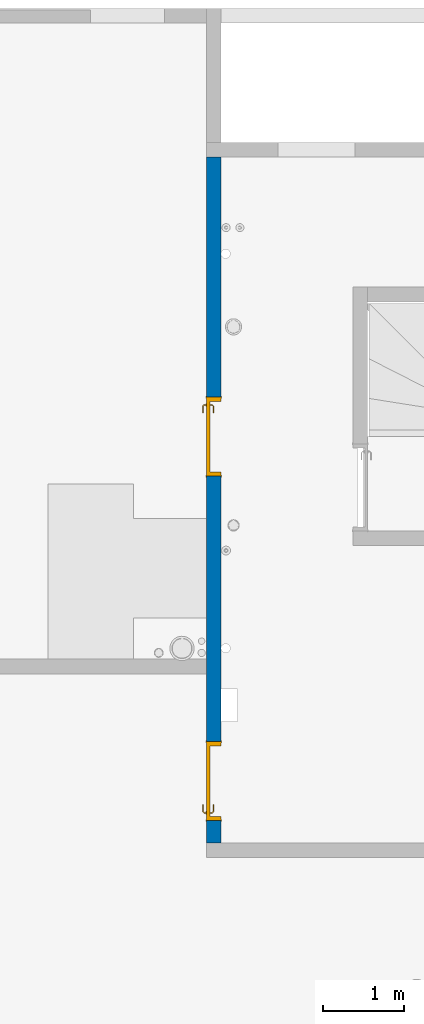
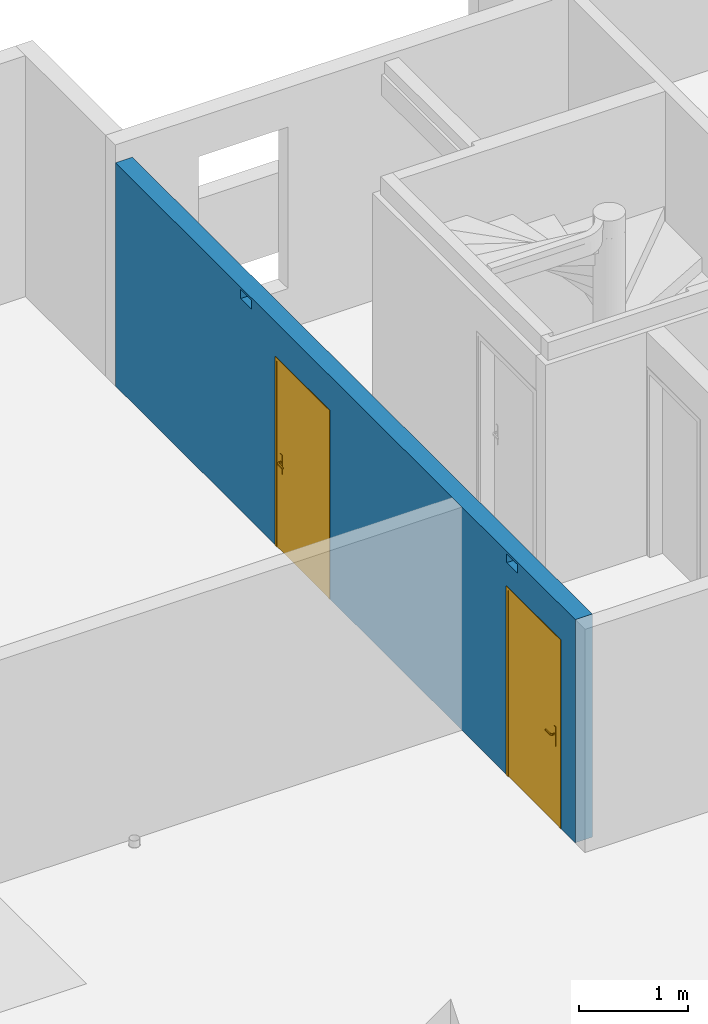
# One storey, part 12 of 24: 2 doors, 1 wall, 4 openings.
"""IFC2X3 building model written with IfcOpenShell, lengths in centimetres."""

from ifc_helpers import new_model, entity, si_unit, converted_unit, derived_unit, direction, frame, frame_2d, origin, place, context, subcontext, project, spatial, rectangle, extrude, faceted_brep, source, transform, mapped, material, material_list, layer, layer_set, layer_usage, type_object, type_shapes, element, fill, save


model = new_model("IFC2X3")

# Units and contexts
model_context = context("Model", 3, precision=0.001, world=origin(), true_north=direction((6.12303176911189e-17, 1.0)))
body_context = subcontext(model_context, "Body", "Model", "MODEL_VIEW")
ifc_project = project(units=[si_unit("LENGTHUNIT", "METRE", prefix="CENTI"), si_unit("AREAUNIT", "SQUARE_METRE"), si_unit("VOLUMEUNIT", "CUBIC_METRE"), converted_unit("PLANEANGLEUNIT", "DEGREE", entity("IfcRatioMeasure", 0.0174532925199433), si_unit("PLANEANGLEUNIT", "RADIAN"), dimensions=[0, 0, 0, 0, 0, 0, 0]), si_unit("MASSUNIT", "GRAM", prefix="KILO"), derived_unit("MASSDENSITYUNIT", [(si_unit("MASSUNIT", "GRAM", prefix="KILO"), 1), (si_unit("LENGTHUNIT", "METRE"), -3)]), si_unit("TIMEUNIT", "SECOND"), si_unit("FREQUENCYUNIT", "HERTZ"), si_unit("THERMODYNAMICTEMPERATUREUNIT", "DEGREE_CELSIUS"), derived_unit("THERMALTRANSMITTANCEUNIT", [(si_unit("MASSUNIT", "GRAM", prefix="KILO"), 1), (si_unit("THERMODYNAMICTEMPERATUREUNIT", "KELVIN"), -1), (si_unit("TIMEUNIT", "SECOND"), -3)]), derived_unit("VOLUMETRICFLOWRATEUNIT", [(si_unit("LENGTHUNIT", "METRE"), 3), (si_unit("TIMEUNIT", "SECOND"), -1)]), si_unit("ELECTRICCURRENTUNIT", "AMPERE"), si_unit("ELECTRICVOLTAGEUNIT", "VOLT"), si_unit("POWERUNIT", "WATT"), si_unit("FORCEUNIT", "NEWTON"), si_unit("ILLUMINANCEUNIT", "LUX"), si_unit("LUMINOUSFLUXUNIT", "LUMEN"), si_unit("LUMINOUSINTENSITYUNIT", "CANDELA"), derived_unit("USERDEFINED", [(si_unit("MASSUNIT", "GRAM", prefix="KILO"), -1), (si_unit("LENGTHUNIT", "METRE"), -2), (si_unit("TIMEUNIT", "SECOND"), 3), (si_unit("LUMINOUSFLUXUNIT", "LUMEN"), 1)]), derived_unit("LINEARVELOCITYUNIT", [(si_unit("LENGTHUNIT", "METRE"), 1), (si_unit("TIMEUNIT", "SECOND"), -1)]), si_unit("PRESSUREUNIT", "PASCAL"), derived_unit("USERDEFINED", [(si_unit("LENGTHUNIT", "METRE"), -2), (si_unit("MASSUNIT", "GRAM", prefix="KILO"), 1), (si_unit("TIMEUNIT", "SECOND"), -2)])], contexts=[model_context])

# Site, building, storey
site_placement = place(None, origin())
site = spatial("IfcSite", under=ifc_project, at=site_placement, Name="Default", CompositionType="ELEMENT")
building_placement = place(site_placement, origin())
building = spatial("IfcBuilding", under=site, at=building_placement, Name="CAGE 03", CompositionType="ELEMENT")
storey_placement = place(building_placement, frame((0.0, 0.0, 1150.0)))
storey = spatial("IfcBuildingStorey", under=building, at=storey_placement, Name="R+4", CompositionType="ELEMENT", Elevation=1150.0)

# Wall, openings, doors
ifc_material_1 = material(Name="Béton, C25/30")
ifc_layer = layer(ifc_material_1, 18.0)
ifc_layer_set = layer_set([ifc_layer], Name="Mur de base:Voile BA 18")
ifc_layer_usage = layer_usage(ifc_layer_set, "AXIS2", "POSITIVE", -9.0)
wall_type = type_object("IfcWallType", Name="Mur de base:Voile BA 18", PredefinedType="STANDARD", material=ifc_layer_set)
wall_placement = place(storey_placement, frame((10019.3658201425, 4266.66066607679, 0.0), z_axis=(0.0, 0.0, 1.0), x_axis=(0.0, 1.0, 0.0)))
wall = element("IfcWallStandardCase", 1, at=wall_placement, inside=storey, type_object=wall_type, material=ifc_layer_usage, Name="Mur de base:Voile BA 18", ObjectType="Mur de base:Voile BA 18", context=body_context, shape_type="SweptSolid", body=[
    extrude(rectangle(XDim=844.0, YDim=17.9999999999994, at=frame_2d((422.0, 2.1316282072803e-14), x_axis=(-1.0, 0.0))), origin(), (0.0, 0.0, 1.0), 250.0),
])
opening_1_placement = place(wall_placement, origin())
element("IfcOpeningElement", 2, at=opening_1_placement, cuts=wall, Name="Mur de base:Voile BA 18", ObjectType="Opening", context=body_context, shape_type="SweptSolid", body=[
    extrude(rectangle(XDim=9.99999999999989, YDim=19.9999999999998, at=frame_2d((0.0, 4.33431068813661e-13), x_axis=(1.0, 0.0))), frame((604.0, -9.0, 242.500000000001), z_axis=(0.0, 1.0, 0.0), x_axis=(0.0, 0.0, -1.0)), (0.0, 0.0, 1.0), 17.9999999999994),
])
opening_2_placement = place(wall_placement, origin())
element("IfcOpeningElement", 3, at=opening_2_placement, cuts=wall, Name="Mur de base:Voile BA 18", ObjectType="Opening", context=body_context, shape_type="SweptSolid", body=[
    extrude(rectangle(XDim=9.99999999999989, YDim=19.9999999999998, at=frame_2d((0.0, 4.33431068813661e-13), x_axis=(1.0, 0.0))), frame((116.0, -9.0, 242.500000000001), z_axis=(0.0, 1.0, 0.0), x_axis=(0.0, 0.0, -1.0)), (0.0, 0.0, 1.0), 17.9999999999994),
])
opening_3_placement = place(wall_placement, frame((451.499999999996, -9.0, 0.0)))
opening_3 = element("IfcOpeningElement", 4, at=opening_3_placement, cuts=wall, Name="Int. Simple:HB93:1", ObjectType="Opening", context=body_context, shape_type="SweptSolid", body=[
    extrude(rectangle(XDim=210.000000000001, YDim=96.9999999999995, at=frame_2d((105.000000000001, 48.4999999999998), x_axis=(1.0, 0.0))), frame((0.0, 0.0, 0.0), z_axis=(0.0, 1.0, 0.0), x_axis=(0.0, 0.0, 1.0)), (0.0, 0.0, 1.0), 18.0),
])
opening_4_placement = place(wall_placement, frame((27.4999999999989, -9.0, 0.0)))
opening_4 = element("IfcOpeningElement", 5, at=opening_4_placement, cuts=wall, Name="Int. Simple:HB93:1", ObjectType="Opening", context=body_context, shape_type="SweptSolid", body=[
    extrude(rectangle(XDim=210.000000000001, YDim=96.9999999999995, at=frame_2d((105.000000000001, 48.4999999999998), x_axis=(1.0, 0.0))), frame((0.0, 0.0, 0.0), z_axis=(0.0, 1.0, 0.0), x_axis=(0.0, 0.0, 1.0)), (0.0, 0.0, 1.0), 18.0),
])
ifc_material_2 = material(Name="Finition Peinture - Blanc satiné")
ifc_material_3 = material(Name="Bois - Panneau de porte")
ifc_material_4 = material(Name="Bois - Cadre de porte")
ifc_material_list_1 = material_list([ifc_material_2, ifc_material_3, ifc_material_4])
ifc_material_list_2 = material_list([ifc_material_2, ifc_material_3, ifc_material_4])
door_style_1 = type_object("IfcDoorStyle", Name="HB93", ConstructionType="NOTDEFINED", OperationType="SINGLE_SWING_RIGHT", ParameterTakesPrecedence=False, Sizeable=False, material=ifc_material_list_2)
shared_shape_1 = source(origin(), body_context, "Body", "Brep", [
    faceted_brep([(96.5000000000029, -0.500000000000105, 87.0), (96.5000000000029, -0.500000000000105, 108.0), (95.535276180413, -0.500000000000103, 108.399601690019), (94.5000000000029, -0.500000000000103, 108.535898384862), (93.4647238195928, -0.500000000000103, 108.399601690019), (92.5000000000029, -0.500000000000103, 108.0), (92.5000000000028, -0.500000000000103, 87.0), (93.4647238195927, -0.500000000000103, 86.6003983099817), (94.5000000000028, -0.500000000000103, 86.464101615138), (95.5352761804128, -0.500000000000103, 86.6003983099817), (96.5000000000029, 0.0, 108.0), (96.5000000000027, 0.0, 87.0), (95.5352761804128, 0.0, 86.6003983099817), (94.5000000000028, 0.0, 86.464101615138), (93.4647238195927, 0.0, 86.6003983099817), (92.5000000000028, 0.0, 87.0), (92.5000000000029, 0.0, 108.0), (93.4647238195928, 0.0, 108.399601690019), (94.5000000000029, 0.0, 108.535898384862), (95.535276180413, 0.0, 108.399601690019)], [[[0, 1, 2, 3, 4, 5, 6, 7, 8, 9]], [[10, 11, 12, 13, 14, 15, 16, 17, 18, 19]], [[9, 12, 11, 0]], [[8, 13, 12, 9]], [[7, 14, 13, 8]], [[7, 6, 15, 14]], [[15, 6, 5, 16]], [[4, 17, 16, 5]], [[3, 18, 17, 4]], [[2, 19, 18, 3]], [[2, 1, 10, 19]], [[11, 10, 1, 0]]]),
    faceted_brep([(96.5000000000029, 4.0, 87.0), (96.5000000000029, 4.0, 108.0), (95.535276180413, 4.0, 108.399601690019), (94.5000000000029, 4.0, 108.535898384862), (93.4647238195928, 4.0, 108.399601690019), (92.500000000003, 4.0, 108.0), (92.5000000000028, 4.0, 87.0), (93.4647238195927, 4.0, 86.6003983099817), (94.5000000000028, 4.0, 86.464101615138), (95.5352761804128, 4.0, 86.6003983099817), (94.5000000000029, 4.49999999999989, 108.535898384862), (95.535276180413, 4.49999999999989, 108.399601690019), (96.5000000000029, 4.49999999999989, 108.0), (96.5000000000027, 4.49999999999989, 87.0), (95.5352761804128, 4.49999999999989, 86.6003983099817), (94.5000000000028, 4.49999999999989, 86.464101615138), (93.4647238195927, 4.49999999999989, 86.6003983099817), (92.5000000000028, 4.4999999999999, 87.0), (92.5000000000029, 4.4999999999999, 108.0), (93.4647238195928, 4.49999999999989, 108.399601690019)], [[[0, 1, 2, 3, 4, 5, 6, 7, 8, 9]], [[10, 11, 12, 13, 14, 15, 16, 17, 18, 19]], [[4, 19, 18, 5]], [[3, 10, 19, 4]], [[2, 11, 10, 3]], [[2, 1, 12, 11]], [[13, 12, 1, 0]], [[9, 14, 13, 0]], [[8, 15, 14, 9]], [[7, 16, 15, 8]], [[7, 6, 17, 16]], [[17, 6, 5, 18]]]),
    faceted_brep([(94.2974701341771, -0.500000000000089, 100.778044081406), (94.7025298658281, -0.500000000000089, 100.778044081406), (95.100000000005, -0.500000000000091, 100.699999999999), (95.100000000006, -0.500000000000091, 99.2999999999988), (94.7025298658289, -0.500000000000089, 99.221955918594), (94.297470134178, -0.500000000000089, 99.2219559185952), (93.9000000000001, -0.500000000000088, 99.3000000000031), (93.9000000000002, -0.500000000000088, 100.7), (94.7025298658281, -3.10045754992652, 100.778044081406), (95.1000000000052, -3.26509507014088, 100.7), (94.2974701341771, -2.93267631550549, 100.778044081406), (92.9298602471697, -4.30028620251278, 100.778044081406), (93.0976414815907, -4.70534593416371, 100.778044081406), (93.9000000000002, -2.76803879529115, 100.7), (93.9000000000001, -2.76803879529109, 99.3000000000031), (94.297470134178, -2.93267631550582, 99.2219559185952), (94.7025298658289, -3.10045754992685, 99.221955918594), (93.0976414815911, -4.70534593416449, 99.221955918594), (92.9298602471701, -4.30028620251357, 99.2219559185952), (95.100000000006, -3.26509507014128, 99.2999999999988), (93.2622790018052, -5.1028160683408, 100.7), (92.7652227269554, -3.90281606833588, 100.7), (92.7652227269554, -3.90281606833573, 99.3000000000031), (93.2622790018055, -5.10281606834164, 99.2999999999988), (84.4981359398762, -5.10281606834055, 100.7), (84.4981359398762, -4.70534593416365, 100.778044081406), (84.4981359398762, -4.30028620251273, 100.778044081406), (84.4981359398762, -3.90281606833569, 100.699999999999), (84.4981359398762, -3.90281606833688, 99.3000000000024), (84.4981359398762, -4.30028620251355, 99.2219559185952), (84.4981359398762, -4.70534593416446, 99.221955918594), (84.4981359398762, -5.10281606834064, 99.2999999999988), (88.7139980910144, -4.5028160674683, 100.78786867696), (89.2692302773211, -5.1028160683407, 100.7), (88.6316793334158, -3.90281606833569, 100.7), (88.631679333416, -3.90281606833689, 99.3000000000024), (88.7139981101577, -4.50281607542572, 99.2121313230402), (89.2692310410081, -5.10281606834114, 99.2999999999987)], [[[0, 1, 2, 3, 4, 5, 6, 7]], [[2, 1, 8, 9]], [[1, 0, 10, 11, 12, 8]], [[0, 7, 13, 10]], [[14, 13, 7, 6]], [[5, 15, 14, 6]], [[5, 4, 16, 17, 18, 15]], [[3, 19, 16, 4]], [[9, 19, 3, 2]], [[9, 8, 12, 20]], [[10, 13, 21, 11]], [[22, 21, 13, 14]], [[14, 15, 18, 22]], [[16, 19, 23, 17]], [[20, 23, 19, 9]], [[24, 25, 26, 27, 28, 29, 30, 31]], [[32, 25, 33]], [[33, 25, 24]], [[33, 20, 12]], [[11, 34, 32]], [[34, 11, 21]], [[27, 26, 34]], [[32, 26, 25]], [[32, 34, 26]], [[32, 33, 12]], [[11, 32, 12]], [[21, 22, 35, 28, 27, 34]], [[36, 29, 35]], [[30, 36, 37]], [[18, 35, 22]], [[29, 28, 35]], [[30, 37, 31]], [[37, 17, 23]], [[36, 17, 37]], [[36, 18, 17]], [[36, 35, 18]], [[29, 36, 30]], [[23, 20, 33, 24, 31, 37]]]),
    faceted_brep([(94.2974701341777, 4.49999999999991, 99.2219559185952), (94.7025298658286, 4.49999999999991, 99.221955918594), (95.1000000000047, 4.49999999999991, 99.2999999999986), (95.1000000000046, 4.49999999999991, 100.7), (94.7025298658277, 4.49999999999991, 100.778044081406), (94.2974701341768, 4.49999999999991, 100.778044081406), (93.8999999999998, 4.49999999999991, 100.7), (93.900000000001, 4.49999999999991, 99.3000000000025), (93.8999999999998, 6.7485204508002, 100.7), (93.8999999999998, 6.74852045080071, 99.3000000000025), (94.2974701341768, 6.91315797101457, 100.778044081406), (94.7025298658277, 7.0809392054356, 100.778044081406), (93.0838906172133, 8.69957845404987, 100.778044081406), (92.9161093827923, 8.29451872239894, 100.778044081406), (95.1000000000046, 7.24557672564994, 100.7), (95.1000000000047, 7.24557672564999, 99.2999999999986), (94.7025298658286, 7.08093920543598, 99.221955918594), (94.2974701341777, 6.91315797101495, 99.2219559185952), (92.9161093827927, 8.29451872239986, 99.2219559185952), (93.0838906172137, 8.69957845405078, 99.221955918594), (92.751471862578, 7.89704858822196, 100.7), (92.7514718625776, 7.89704858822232, 99.3000000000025), (93.2485281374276, 9.09704858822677, 100.7), (93.2485281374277, 9.09704858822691, 99.2999999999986), (84.4954216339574, 8.29451872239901, 100.778044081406), (84.4954216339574, 8.69957845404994, 100.778044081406), (84.4954216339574, 9.09704858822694, 100.7), (84.4954216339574, 9.09704858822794, 99.2999999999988), (84.4954216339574, 8.6995784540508, 99.221955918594), (84.4954216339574, 8.29451872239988, 99.2219559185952), (84.4954216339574, 7.89704858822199, 99.3000000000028), (84.4954216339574, 7.89704858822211, 100.7), (88.6234467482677, 7.89704858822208, 100.7), (88.6234479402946, 7.89704858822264, 99.3000000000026), (88.7057655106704, 8.49704858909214, 100.78786867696), (89.255479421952, 9.09704858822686, 100.7), (89.2554795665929, 9.09704858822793, 99.2999999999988), (88.7057654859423, 8.49704858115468, 99.2121313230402)], [[[0, 1, 2, 3, 4, 5, 6, 7]], [[8, 9, 7, 6]], [[5, 10, 8, 6]], [[5, 4, 11, 12, 13, 10]], [[3, 14, 11, 4]], [[14, 3, 2, 15]], [[2, 1, 16, 15]], [[1, 0, 17, 18, 19, 16]], [[0, 7, 9, 17]], [[20, 21, 9, 8]], [[8, 10, 13, 20]], [[14, 22, 12, 11]], [[23, 22, 14, 15]], [[15, 16, 19, 23]], [[17, 9, 21, 18]], [[24, 25, 26, 27, 28, 29, 30, 31]], [[21, 20, 32, 31, 30, 33]], [[34, 24, 32]], [[25, 34, 35]], [[13, 32, 20]], [[24, 31, 32]], [[25, 35, 26]], [[35, 12, 22]], [[34, 12, 35]], [[34, 13, 12]], [[34, 32, 13]], [[24, 34, 25]], [[22, 23, 36, 27, 26, 35]], [[37, 28, 36]], [[36, 28, 27]], [[36, 23, 19]], [[18, 33, 37]], [[33, 18, 21]], [[30, 29, 33]], [[37, 29, 28]], [[37, 33, 29]], [[37, 36, 19]], [[18, 37, 19]]]),
    faceted_brep([(100.500000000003, 4.0, 206.5), (100.500000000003, 4.0, 0.0), (10.5000000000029, 4.0, 0.0), (10.5000000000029, 4.0, 206.5), (100.500000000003, 0.0, 206.5), (10.5000000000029, 0.0, 206.5), (10.5000000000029, 0.0, 0.0), (100.500000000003, 0.0, 0.0)], [[[0, 1, 2, 3]], [[4, 5, 6, 7]], [[3, 5, 4, 0]], [[2, 6, 5, 3]], [[1, 7, 6, 2]], [[0, 4, 7, 1]]]),
    faceted_brep([(104.0, 0.0, 0.0), (100.500000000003, 0.0, 0.0), (100.500000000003, 4.0, 0.0), (99.0, 4.0, 0.0), (99.0, 18.0, 0.0), (104.0, 18.0, 0.0), (104.0, 18.0, 210.0), (104.0, 0.0, 210.0), (99.0, 18.0, 205.0), (12.0, 18.0, 205.0), (12.0, 18.0, 0.0), (7.0, 18.0, 0.0), (7.0, 18.0, 210.0), (99.0, 4.0, 205.0), (100.500000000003, 4.0, 206.5), (10.5000000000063, 4.0, 206.5), (10.5000000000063, 4.0, 0.0), (12.0, 4.0, 0.0), (12.0, 4.0, 205.0), (100.500000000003, 0.0, 206.5), (7.0, 0.0, 210.0), (7.0, 0.0, 0.0), (10.5000000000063, 0.0, 0.0), (10.5000000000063, 0.0, 206.5)], [[[0, 1, 2, 3, 4, 5]], [[5, 6, 7, 0]], [[4, 8, 9, 10, 11, 12, 6, 5]], [[3, 13, 8, 4]], [[2, 14, 15, 16, 17, 18, 13, 3]], [[1, 19, 14, 2]], [[0, 7, 20, 21, 22, 23, 19, 1]], [[12, 11, 21, 20]], [[21, 11, 10, 17, 16, 22]], [[18, 17, 10, 9]], [[23, 22, 16, 15]], [[6, 12, 20, 7]], [[13, 18, 9, 8]], [[19, 23, 15, 14]]]),
    faceted_brep([(102.500000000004, 18.0, 0.0), (102.500000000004, 18.5000000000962, 0.0), (105.500000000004, 18.5000000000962, 0.0), (105.500000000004, 18.0, 0.0), (105.500000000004, 18.0, 211.500000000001), (5.50000000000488, 18.0, 211.500000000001), (5.50000000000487, 18.0, 0.0), (8.50000000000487, 18.0, 0.0), (8.50000000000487, 18.0, 208.500000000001), (102.500000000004, 18.0, 208.500000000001), (105.500000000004, 18.5000000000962, 211.500000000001), (102.500000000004, 18.5000000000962, 208.500000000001), (8.50000000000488, 18.5000000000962, 208.500000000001), (8.50000000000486, 18.5000000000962, 0.0), (5.50000000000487, 18.5000000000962, 0.0), (5.50000000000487, 18.5000000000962, 211.500000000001)], [[[0, 1, 2, 3]], [[3, 4, 5, 6, 7, 8, 9, 0]], [[2, 10, 4, 3]], [[1, 11, 12, 13, 14, 15, 10, 2]], [[0, 9, 11, 1]], [[7, 6, 14, 13]], [[8, 7, 13, 12]], [[15, 14, 6, 5]], [[10, 15, 5, 4]], [[9, 8, 12, 11]]]),
    faceted_brep([(105.500000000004, -0.5, 0.0), (105.500000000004, -0.5, 211.500000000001), (5.50000000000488, -0.5, 211.500000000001), (5.50000000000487, -0.5, 0.0), (8.50000000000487, -0.5, 0.0), (8.50000000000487, -0.5, 208.500000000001), (102.500000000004, -0.5, 208.500000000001), (102.500000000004, -0.5, 0.0), (105.500000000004, 0.0, 0.0), (105.500000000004, 0.0, 211.500000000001), (102.500000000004, 0.0, 0.0), (102.500000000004, 0.0, 208.500000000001), (8.50000000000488, 0.0, 208.500000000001), (8.50000000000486, 0.0, 0.0), (5.50000000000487, 0.0, 0.0), (5.50000000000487, 0.0, 211.500000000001)], [[[0, 1, 2, 3, 4, 5, 6, 7]], [[8, 9, 1, 0]], [[10, 11, 12, 13, 14, 15, 9, 8]], [[7, 6, 11, 10]], [[5, 4, 13, 12]], [[15, 14, 3, 2]], [[9, 15, 2, 1]], [[6, 5, 12, 11]], [[4, 3, 14, 13]], [[7, 10, 8, 0]]]),
])
type_shapes(door_style_1, [shared_shape_1])
door_1_placement = place(opening_4_placement, frame((104.0, 18.0, 0.0), z_axis=(0.0, 0.0, 1.0), x_axis=(-1.0, 0.0, 0.0)))
door_1 = element("IfcDoor", 6, at=door_1_placement, inside=storey, type_object=door_style_1, material=ifc_material_list_1, Name="Int. Simple:HB93", ObjectType="HB93", OverallHeight=210.000000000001, OverallWidth=96.9999999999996, context=body_context, shape_type="MappedRepresentation", body=[
    mapped(shared_shape_1, transform((0.0, 0.0, 0.0), scale=1.0)),
])
fill(opening_4, door_1)
ifc_material_list_3 = material_list([ifc_material_2, ifc_material_3, ifc_material_4])
ifc_material_list_4 = material_list([ifc_material_2, ifc_material_3, ifc_material_4])
door_style_2 = type_object("IfcDoorStyle", Name="HB93", ConstructionType="NOTDEFINED", OperationType="SINGLE_SWING_LEFT", ParameterTakesPrecedence=False, Sizeable=False, material=ifc_material_list_4)
shared_shape_2 = source(origin(), body_context, "Body", "Brep", [
    faceted_brep([(10.5352761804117, -0.500000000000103, 86.6003983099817), (11.5000000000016, -0.500000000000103, 87.0), (11.5000000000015, -0.500000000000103, 108.0), (10.5352761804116, -0.500000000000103, 108.399601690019), (9.50000000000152, -0.500000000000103, 108.535898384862), (8.46472381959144, -0.500000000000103, 108.399601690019), (7.50000000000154, -0.500000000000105, 108.0), (7.50000000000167, -0.500000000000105, 87.0), (8.46472381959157, -0.500000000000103, 86.6003983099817), (9.50000000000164, -0.500000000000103, 86.464101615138), (10.5352761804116, 0.0, 108.399601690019), (11.5000000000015, 0.0, 108.0), (11.5000000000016, 0.0, 87.0), (10.5352761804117, 0.0, 86.6003983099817), (9.50000000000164, 0.0, 86.464101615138), (8.46472381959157, 0.0, 86.6003983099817), (7.50000000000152, 0.0, 87.0), (7.50000000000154, 0.0, 108.0), (8.46472381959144, 0.0, 108.399601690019), (9.50000000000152, 0.0, 108.535898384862)], [[[0, 1, 2, 3, 4, 5, 6, 7, 8, 9]], [[10, 11, 12, 13, 14, 15, 16, 17, 18, 19]], [[16, 15, 8, 7]], [[8, 15, 14, 9]], [[14, 13, 0, 9]], [[13, 12, 1, 0]], [[2, 1, 12, 11]], [[11, 10, 3, 2]], [[3, 10, 19, 4]], [[19, 18, 5, 4]], [[18, 17, 6, 5]], [[7, 6, 17, 16]]]),
    faceted_brep([(10.5352761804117, 4.0, 86.6003983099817), (11.5000000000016, 4.0, 87.0), (11.5000000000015, 4.0, 108.0), (10.5352761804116, 4.0, 108.399601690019), (9.50000000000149, 4.0, 108.535898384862), (8.46472381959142, 4.0, 108.399601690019), (7.50000000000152, 4.0, 108.0), (7.50000000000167, 4.0, 87.0), (8.46472381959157, 4.0, 86.6003983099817), (9.50000000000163, 4.0, 86.464101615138), (10.5352761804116, 4.49999999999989, 108.399601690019), (11.5000000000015, 4.4999999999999, 108.0), (11.5000000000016, 4.4999999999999, 87.0), (10.5352761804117, 4.49999999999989, 86.6003983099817), (9.50000000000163, 4.49999999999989, 86.464101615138), (8.46472381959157, 4.49999999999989, 86.6003983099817), (7.50000000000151, 4.49999999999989, 87.0), (7.50000000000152, 4.49999999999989, 108.0), (8.46472381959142, 4.49999999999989, 108.399601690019), (9.50000000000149, 4.49999999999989, 108.535898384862)], [[[0, 1, 2, 3, 4, 5, 6, 7, 8, 9]], [[10, 11, 12, 13, 14, 15, 16, 17, 18, 19]], [[11, 10, 3, 2]], [[3, 10, 19, 4]], [[19, 18, 5, 4]], [[18, 17, 6, 5]], [[7, 6, 17, 16]], [[16, 15, 8, 7]], [[8, 15, 14, 9]], [[14, 13, 0, 9]], [[13, 12, 1, 0]], [[2, 1, 12, 11]]]),
    faceted_brep([(9.29747013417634, -0.500000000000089, 100.778044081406), (9.70252986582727, -0.500000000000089, 100.778044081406), (10.1000000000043, -0.500000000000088, 100.699999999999), (10.1000000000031, -0.500000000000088, 99.3000000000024), (9.70252986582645, -0.500000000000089, 99.2219559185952), (9.29747013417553, -0.500000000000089, 99.221955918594), (8.89999999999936, -0.500000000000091, 99.2999999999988), (8.89999999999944, -0.500000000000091, 100.7), (8.89999999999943, -3.26509507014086, 100.7), (9.29747013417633, -3.10045754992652, 100.778044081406), (10.9023585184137, -4.70534593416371, 100.778044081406), (11.0701397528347, -4.30028620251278, 100.778044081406), (9.70252986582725, -2.93267631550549, 100.778044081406), (10.1000000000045, -2.76803879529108, 100.7), (10.1000000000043, -2.76803879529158, 99.3000000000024), (9.70252986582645, -2.93267631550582, 99.2219559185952), (11.0701397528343, -4.30028620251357, 99.2219559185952), (10.9023585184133, -4.70534593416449, 99.221955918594), (9.29747013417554, -3.10045754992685, 99.221955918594), (8.89999999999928, -3.26509507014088, 99.2999999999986), (10.7377209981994, -5.1028160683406, 100.7), (11.2347772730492, -3.90281606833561, 100.7), (11.2347772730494, -3.90281606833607, 99.3000000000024), (10.7377209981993, -5.10281606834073, 99.2999999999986), (19.5018640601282, -5.1028160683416, 99.2999999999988), (19.5018640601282, -4.70534593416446, 99.221955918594), (19.5018640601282, -4.30028620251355, 99.2219559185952), (19.5018640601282, -3.90281606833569, 99.3000000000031), (19.5018640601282, -3.90281606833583, 100.7), (19.5018640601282, -4.30028620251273, 100.778044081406), (19.5018640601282, -4.70534593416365, 100.778044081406), (19.5018640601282, -5.10281606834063, 100.699999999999), (14.7307697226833, -5.10281606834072, 100.7), (15.28600190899, -4.5028160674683, 100.78786867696), (15.3683206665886, -3.9028160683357, 100.7), (15.3683206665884, -3.90281606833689, 99.3000000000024), (15.2860018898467, -4.50281607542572, 99.2121313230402), (14.7307700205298, -5.10281606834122, 99.2999999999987)], [[[0, 1, 2, 3, 4, 5, 6, 7]], [[8, 9, 0, 7]], [[9, 10, 11, 12, 1, 0]], [[12, 13, 2, 1]], [[3, 2, 13, 14]], [[14, 15, 4, 3]], [[15, 16, 17, 18, 5, 4]], [[18, 19, 6, 5]], [[7, 6, 19, 8]], [[20, 10, 9, 8]], [[11, 21, 13, 12]], [[14, 13, 21, 22]], [[22, 16, 15, 14]], [[17, 23, 19, 18]], [[8, 19, 23, 20]], [[24, 25, 26, 27, 28, 29, 30, 31]], [[32, 30, 33]], [[31, 30, 32]], [[10, 20, 32]], [[33, 34, 11]], [[21, 11, 34]], [[34, 29, 28]], [[30, 29, 33]], [[29, 34, 33]], [[10, 32, 33]], [[10, 33, 11]], [[22, 21, 34, 28, 27, 35]], [[35, 26, 36]], [[37, 36, 25]], [[22, 35, 16]], [[35, 27, 26]], [[24, 37, 25]], [[23, 17, 37]], [[37, 17, 36]], [[17, 16, 36]], [[16, 35, 36]], [[25, 36, 26]], [[20, 23, 37, 24, 31, 32]]]),
    faceted_brep([(9.29747013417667, 4.49999999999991, 100.778044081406), (8.89999999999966, 4.49999999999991, 100.7), (8.89999999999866, 4.49999999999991, 99.2999999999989), (9.2974701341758, 4.49999999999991, 99.221955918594), (9.70252986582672, 4.49999999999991, 99.2219559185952), (10.1000000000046, 4.49999999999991, 99.3000000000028), (10.1000000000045, 4.49999999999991, 100.7), (9.70252986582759, 4.49999999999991, 100.778044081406), (10.1000000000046, 6.7485204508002, 99.3000000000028), (10.1000000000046, 6.74852045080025, 100.7), (9.70252986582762, 6.91315797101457, 100.778044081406), (11.0838906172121, 8.29451872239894, 100.778044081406), (10.9161093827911, 8.69957845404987, 100.778044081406), (9.29747013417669, 7.0809392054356, 100.778044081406), (8.89999999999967, 7.24557672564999, 100.7), (8.89999999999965, 7.24557672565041, 99.2999999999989), (9.29747013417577, 7.08093920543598, 99.221955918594), (10.9161093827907, 8.69957845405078, 99.221955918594), (11.0838906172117, 8.29451872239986, 99.2219559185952), (9.7025298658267, 6.91315797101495, 99.2219559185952), (11.2485281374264, 7.89704858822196, 99.3000000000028), (11.2485281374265, 7.89704858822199, 100.7), (10.7514718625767, 9.0970485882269, 100.7), (10.751471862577, 9.0970485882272, 99.2999999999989), (19.504578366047, 7.89704858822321, 99.3000000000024), (19.504578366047, 8.29451872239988, 99.2219559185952), (19.504578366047, 8.6995784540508, 99.221955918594), (19.504578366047, 9.09704858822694, 99.2999999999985), (19.504578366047, 9.09704858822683, 100.7), (19.504578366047, 8.69957845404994, 100.778044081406), (19.504578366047, 8.29451872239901, 100.778044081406), (19.504578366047, 7.89704858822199, 100.7), (15.3765520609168, 7.89704858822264, 99.3000000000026), (15.3765532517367, 7.89704858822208, 100.7), (15.294234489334, 8.49704858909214, 100.78786867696), (14.7445205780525, 9.09704858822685, 100.7), (14.7445204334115, 9.09704858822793, 99.2999999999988), (15.2942345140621, 8.49704858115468, 99.2121313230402)], [[[0, 1, 2, 3, 4, 5, 6, 7]], [[6, 5, 8, 9]], [[9, 10, 7, 6]], [[10, 11, 12, 13, 0, 7]], [[13, 14, 1, 0]], [[2, 1, 14, 15]], [[15, 16, 3, 2]], [[16, 17, 18, 19, 4, 3]], [[19, 8, 5, 4]], [[9, 8, 20, 21]], [[21, 11, 10, 9]], [[12, 22, 14, 13]], [[15, 14, 22, 23]], [[23, 17, 16, 15]], [[18, 20, 8, 19]], [[24, 25, 26, 27, 28, 29, 30, 31]], [[21, 20, 32, 24, 31, 33]], [[33, 30, 34]], [[35, 34, 29]], [[21, 33, 11]], [[33, 31, 30]], [[28, 35, 29]], [[22, 12, 35]], [[35, 12, 34]], [[12, 11, 34]], [[11, 33, 34]], [[29, 34, 30]], [[22, 35, 28, 27, 36, 23]], [[36, 26, 37]], [[27, 26, 36]], [[17, 23, 36]], [[37, 32, 18]], [[20, 18, 32]], [[32, 25, 24]], [[26, 25, 37]], [[25, 32, 37]], [[17, 36, 37]], [[17, 37, 18]]]),
    faceted_brep([(3.50000000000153, 4.0, 206.5), (93.5000000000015, 4.0, 206.5), (93.5000000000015, 4.0, 0.0), (3.50000000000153, 4.0, 0.0), (3.50000000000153, 0.0, 206.5), (3.50000000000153, 0.0, 0.0), (93.5000000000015, 0.0, 0.0), (93.5000000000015, 0.0, 206.5)], [[[0, 1, 2, 3]], [[4, 5, 6, 7]], [[1, 0, 4, 7]], [[2, 1, 7, 6]], [[3, 2, 6, 5]], [[0, 3, 5, 4]]]),
    faceted_brep([(0.0, 0.0, 0.0), (0.0, 18.0, 0.0), (5.0, 18.0, 0.0), (5.0, 4.0, 0.0), (3.50000000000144, 4.0, 0.0), (3.50000000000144, 0.0, 0.0), (0.0, 0.0, 210.0), (0.0, 18.0, 210.0), (97.0, 18.0, 210.0), (97.0, 18.0, 0.0), (92.0, 18.0, 0.0), (92.0, 18.0, 205.0), (5.0, 18.0, 205.0), (5.0, 4.0, 205.0), (92.0, 4.0, 205.0), (92.0, 4.0, 0.0), (93.4999999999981, 4.0, 0.0), (93.4999999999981, 4.0, 206.5), (3.50000000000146, 4.0, 206.5), (3.50000000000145, 0.0, 206.5), (93.4999999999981, 0.0, 206.5), (93.4999999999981, 0.0, 0.0), (97.0, 0.0, 0.0), (97.0, 0.0, 210.0)], [[[0, 1, 2, 3, 4, 5]], [[1, 0, 6, 7]], [[2, 1, 7, 8, 9, 10, 11, 12]], [[3, 2, 12, 13]], [[4, 3, 13, 14, 15, 16, 17, 18]], [[5, 4, 18, 19]], [[0, 5, 19, 20, 21, 22, 23, 6]], [[8, 23, 22, 9]], [[22, 21, 16, 15, 10, 9]], [[14, 11, 10, 15]], [[20, 17, 16, 21]], [[7, 6, 23, 8]], [[13, 12, 11, 14]], [[19, 18, 17, 20]]]),
    faceted_brep([(1.5, 18.0, 0.0), (-1.49999999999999, 18.0, 0.0), (-1.49999999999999, 18.5000000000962, 0.0), (1.5, 18.5000000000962, 0.0), (1.5, 18.0, 208.500000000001), (95.4999999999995, 18.0, 208.500000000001), (95.4999999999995, 18.0, 0.0), (98.4999999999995, 18.0, 0.0), (98.4999999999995, 18.0, 211.500000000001), (-1.49999999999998, 18.0, 211.500000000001), (-1.49999999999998, 18.5000000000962, 211.500000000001), (98.4999999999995, 18.5000000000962, 211.500000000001), (98.4999999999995, 18.5000000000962, 0.0), (95.4999999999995, 18.5000000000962, 0.0), (95.4999999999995, 18.5000000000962, 208.500000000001), (1.50000000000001, 18.5000000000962, 208.500000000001)], [[[0, 1, 2, 3]], [[1, 0, 4, 5, 6, 7, 8, 9]], [[2, 1, 9, 10]], [[3, 2, 10, 11, 12, 13, 14, 15]], [[0, 3, 15, 4]], [[6, 13, 12, 7]], [[5, 14, 13, 6]], [[11, 8, 7, 12]], [[10, 9, 8, 11]], [[4, 15, 14, 5]]]),
    faceted_brep([(-1.49999999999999, -0.5, 0.0), (1.5, -0.5, 0.0), (1.5, -0.5, 208.500000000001), (95.4999999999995, -0.5, 208.500000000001), (95.4999999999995, -0.5, 0.0), (98.4999999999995, -0.5, 0.0), (98.4999999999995, -0.5, 211.500000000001), (-1.49999999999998, -0.5, 211.500000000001), (-1.49999999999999, 0.0, 0.0), (-1.49999999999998, 0.0, 211.500000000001), (1.5, 0.0, 0.0), (98.4999999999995, 0.0, 211.500000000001), (98.4999999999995, 0.0, 0.0), (95.4999999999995, 0.0, 0.0), (95.4999999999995, 0.0, 208.500000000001), (1.50000000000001, 0.0, 208.500000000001)], [[[0, 1, 2, 3, 4, 5, 6, 7]], [[8, 0, 7, 9]], [[10, 8, 9, 11, 12, 13, 14, 15]], [[1, 10, 15, 2]], [[3, 14, 13, 4]], [[11, 6, 5, 12]], [[9, 7, 6, 11]], [[2, 15, 14, 3]], [[4, 13, 12, 5]], [[1, 0, 8, 10]]]),
])
type_shapes(door_style_2, [shared_shape_2])
door_2_placement = place(opening_3_placement, frame((97.0, 18.0, 0.0), z_axis=(0.0, 0.0, 1.0), x_axis=(-1.0, 0.0, 0.0)))
door_2 = element("IfcDoor", 7, at=door_2_placement, inside=storey, type_object=door_style_2, material=ifc_material_list_3, Name="Int. Simple:HB93", ObjectType="HB93", OverallHeight=210.000000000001, OverallWidth=96.9999999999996, context=body_context, shape_type="MappedRepresentation", body=[
    mapped(shared_shape_2, transform((0.0, 0.0, 0.0), scale=1.0)),
])
fill(opening_3, door_2)

save(model, "model.ifc")
